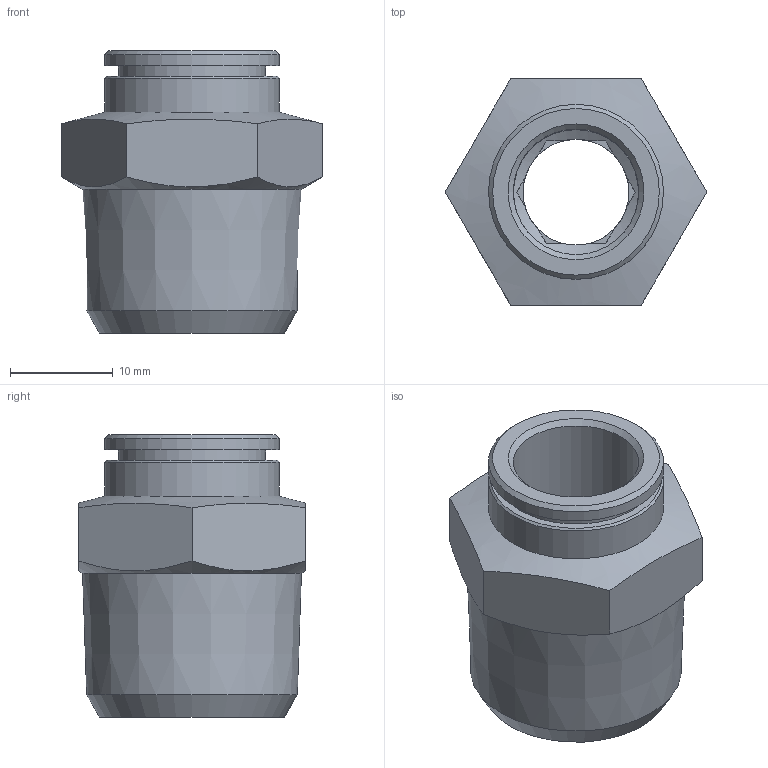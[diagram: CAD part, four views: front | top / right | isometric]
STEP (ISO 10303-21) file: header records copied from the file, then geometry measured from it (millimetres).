
FILE_DESCRIPTION(/* description */ (''),/* implementation_level */ '2;1');
FILE_NAME(/* name */ '200163-ES_STX_01K_12_1-2_26.01.2017',/* time_stamp */ '2017-01-26T11:02:57+01:00',/* author */ (''),/* organization */ (''),/* preprocessor_version */ 'ST-DEVELOPER v16.5',/* originating_system */ 'HiCAD 2016 2102.0 Build 402',/* authorisation */ '');
FILE_SCHEMA (('AUTOMOTIVE_DESIGN { 1 0 10303 214 1 1 1 1 }'));
Length unit declared in the file: millimetre
Products named in the file (3): Root; DR12; R200163-ES
Assembly tree (2 placements, depth 2):
  Root
    DR12
    R200163-ES
Bounding box: 25.4 x 22 x 27.5 mm (x, y, z)
Volume: 5673.6 mm3; surface area: 4295.5 mm2
Topology: 2 solids, 2 shells, 51 faces, 122 edges, 80 vertices
Faces by surface type: plane 32, cone 11, cylinder 8
Full cylindrical faces by diameter (mm): 10.3 x1, 12.15 x1, 12.2 x1, 13.2 x1, 14.3 x1, 14.5 x1, 17 x2
Entity records: 2391 total; most frequent: DIRECTION 268, CARTESIAN_POINT 226, PRESENTATION_STYLE_ASSIGNMENT 196, COLOUR_RGB 195, DRAUGHTING_PRE_DEFINED_CURVE_FONT 194, CURVE_STYLE 194, OVER_RIDING_STYLED_ITEM 194, ORIENTED_EDGE 194
